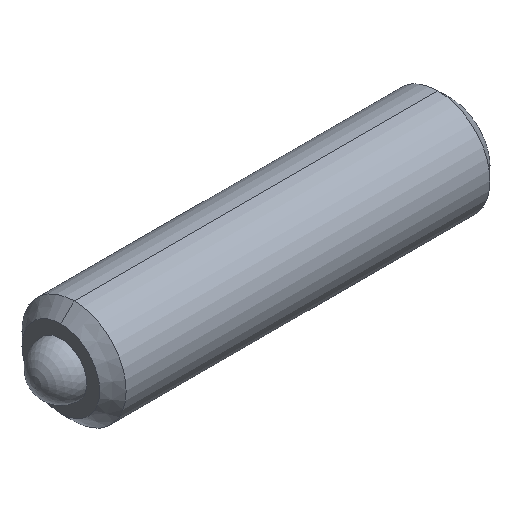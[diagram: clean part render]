
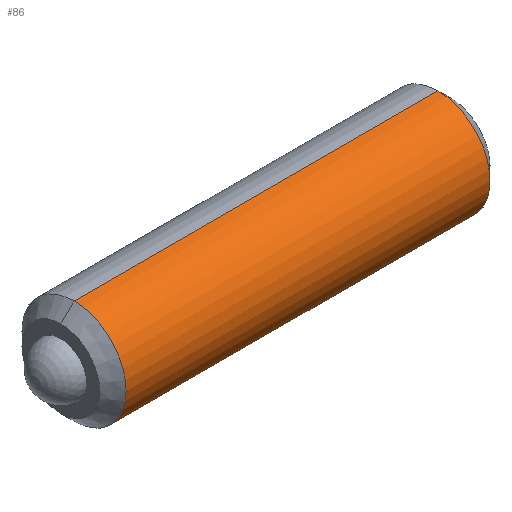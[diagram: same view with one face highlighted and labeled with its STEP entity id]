
A CAD part, isometric view. The second image highlights one B-rep face of the part: STEP entity #86.
In plain terms, the highlighted cylindrical face has radius 1 mm (diameter 2 mm), a partial arc.
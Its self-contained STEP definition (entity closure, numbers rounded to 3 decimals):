
#24 = FACE_OUTER_BOUND ( 'NONE', #493, .T. ) ;
#41 = CARTESIAN_POINT ( 'NONE',  ( 7.246, 0., 1. ) ) ;
#51 = DIRECTION ( 'NONE',  ( 0., 0., -1. ) ) ;
#52 = DIRECTION ( 'NONE',  ( 1., 0., 0. ) ) ;
#55 = CARTESIAN_POINT ( 'NONE',  ( 0.254, 0., 0. ) ) ;
#75 = LINE ( 'NONE', #297, #546 ) ;
#76 = CARTESIAN_POINT ( 'NONE',  ( 7.246, 0., -1. ) ) ;
#78 = DIRECTION ( 'NONE',  ( 0., 0., 1. ) ) ;
#82 = AXIS2_PLACEMENT_3D ( 'NONE', #55, #52, #51 ) ;
#86 = ADVANCED_FACE ( 'NONE', ( #24 ), #555, .T. ) ;
#90 = EDGE_CURVE ( 'NONE', #400, #590, #427, .T. ) ;
#107 = AXIS2_PLACEMENT_3D ( 'NONE', #425, #116, #469 ) ;
#116 = DIRECTION ( 'NONE',  ( -1., 0., 0. ) ) ;
#117 = CARTESIAN_POINT ( 'NONE',  ( 7.5, 0., 0. ) ) ;
#127 = DIRECTION ( 'NONE',  ( -1., 0., 0. ) ) ;
#135 = CARTESIAN_POINT ( 'NONE',  ( 0.254, 0., -1. ) ) ;
#151 = CIRCLE ( 'NONE', #107, 1. ) ;
#260 = LINE ( 'NONE', #524, #461 ) ;
#297 = CARTESIAN_POINT ( 'NONE',  ( 7.5, 0., -1. ) ) ;
#298 = VERTEX_POINT ( 'NONE', #41 ) ;
#314 = AXIS2_PLACEMENT_3D ( 'NONE', #117, #127, #78 ) ;
#338 = EDGE_CURVE ( 'NONE', #523, #298, #151, .T. ) ;
#371 = EDGE_CURVE ( 'NONE', #298, #400, #260, .T. ) ;
#378 = ORIENTED_EDGE ( 'NONE', *, *, #371, .T. ) ;
#400 = VERTEX_POINT ( 'NONE', #479 ) ;
#425 = CARTESIAN_POINT ( 'NONE',  ( 7.246, 0., 0. ) ) ;
#427 = CIRCLE ( 'NONE', #82, 1. ) ;
#430 = DIRECTION ( 'NONE',  ( -1., 0., 0. ) ) ;
#432 = DIRECTION ( 'NONE',  ( -1., 0., 0. ) ) ;
#442 = EDGE_CURVE ( 'NONE', #523, #590, #75, .T. ) ;
#461 = VECTOR ( 'NONE', #430, 1000. ) ;
#469 = DIRECTION ( 'NONE',  ( 0., 0., -1. ) ) ;
#479 = CARTESIAN_POINT ( 'NONE',  ( 0.254, 0., 1. ) ) ;
#493 = EDGE_LOOP ( 'NONE', ( #576, #514, #378, #562 ) ) ;
#514 = ORIENTED_EDGE ( 'NONE', *, *, #338, .T. ) ;
#523 = VERTEX_POINT ( 'NONE', #76 ) ;
#524 = CARTESIAN_POINT ( 'NONE',  ( 7.5, 0., 1. ) ) ;
#546 = VECTOR ( 'NONE', #432, 1000. ) ;
#555 = CYLINDRICAL_SURFACE ( 'NONE', #314, 1. ) ;
#562 = ORIENTED_EDGE ( 'NONE', *, *, #90, .T. ) ;
#576 = ORIENTED_EDGE ( 'NONE', *, *, #442, .F. ) ;
#590 = VERTEX_POINT ( 'NONE', #135 ) ;
